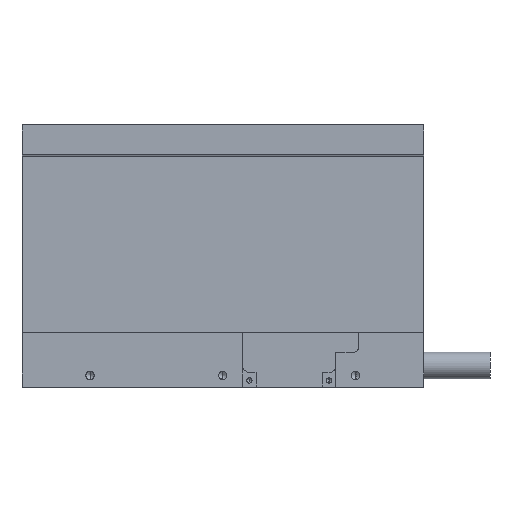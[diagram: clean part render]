
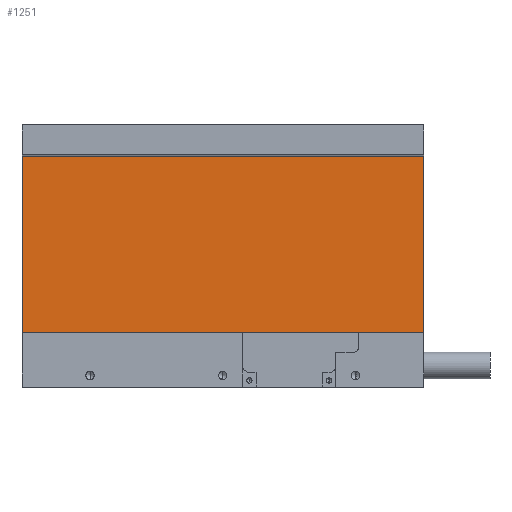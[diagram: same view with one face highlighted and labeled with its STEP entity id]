
A CAD part, left-side view. The second image highlights one B-rep face of the part: STEP entity #1251.
In plain terms, the highlighted planar face has unit normal (-1, 0, 0).
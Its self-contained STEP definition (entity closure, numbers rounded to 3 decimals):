
#83 = CARTESIAN_POINT ( 'NONE',  ( -3.6, 121., -9.5 ) ) ;
#86 = DIRECTION ( 'NONE',  ( 0., 0., 1. ) ) ;
#210 = ORIENTED_EDGE ( 'NONE', *, *, #1215, .F. ) ;
#351 = LINE ( 'NONE', #1177, #1362 ) ;
#378 = EDGE_CURVE ( 'NONE', #3182, #1175, #664, .T. ) ;
#424 = LINE ( 'NONE', #2509, #1943 ) ;
#645 = DIRECTION ( 'NONE',  ( 1., 0., 0. ) ) ;
#664 = LINE ( 'NONE', #1188, #1250 ) ;
#747 = ORIENTED_EDGE ( 'NONE', *, *, #2560, .T. ) ;
#933 = CARTESIAN_POINT ( 'NONE',  ( -3.6, 121., -62.6 ) ) ;
#1033 = DIRECTION ( 'NONE',  ( 0., -1., 0. ) ) ;
#1053 = EDGE_LOOP ( 'NONE', ( #747, #1777, #210, #2303 ) ) ;
#1175 = VERTEX_POINT ( 'NONE', #3097 ) ;
#1177 = CARTESIAN_POINT ( 'NONE',  ( -3.6, 121., -62.6 ) ) ;
#1188 = CARTESIAN_POINT ( 'NONE',  ( -3.6, 121., -9.5 ) ) ;
#1215 = EDGE_CURVE ( 'NONE', #2407, #3182, #351, .T. ) ;
#1250 = VECTOR ( 'NONE', #2931, 1000. ) ;
#1251 = ADVANCED_FACE ( 'NONE', ( #1984 ), #2650, .F. ) ;
#1295 = VERTEX_POINT ( 'NONE', #1425 ) ;
#1362 = VECTOR ( 'NONE', #2398, 1000. ) ;
#1425 = CARTESIAN_POINT ( 'NONE',  ( -3.6, 0., -62.6 ) ) ;
#1455 = LINE ( 'NONE', #2818, #2041 ) ;
#1550 = AXIS2_PLACEMENT_3D ( 'NONE', #933, #645, #3144 ) ;
#1726 = CARTESIAN_POINT ( 'NONE',  ( -3.6, 121., -62.6 ) ) ;
#1777 = ORIENTED_EDGE ( 'NONE', *, *, #378, .F. ) ;
#1943 = VECTOR ( 'NONE', #1033, 1000. ) ;
#1984 = FACE_OUTER_BOUND ( 'NONE', #1053, .T. ) ;
#2041 = VECTOR ( 'NONE', #86, 1000. ) ;
#2303 = ORIENTED_EDGE ( 'NONE', *, *, #3057, .T. ) ;
#2398 = DIRECTION ( 'NONE',  ( 0., 0., 1. ) ) ;
#2407 = VERTEX_POINT ( 'NONE', #1726 ) ;
#2509 = CARTESIAN_POINT ( 'NONE',  ( -3.6, 121., -62.6 ) ) ;
#2560 = EDGE_CURVE ( 'NONE', #1295, #1175, #1455, .T. ) ;
#2650 = PLANE ( 'NONE',  #1550 ) ;
#2818 = CARTESIAN_POINT ( 'NONE',  ( -3.6, 0., -62.6 ) ) ;
#2931 = DIRECTION ( 'NONE',  ( 0., -1., 0. ) ) ;
#3057 = EDGE_CURVE ( 'NONE', #2407, #1295, #424, .T. ) ;
#3097 = CARTESIAN_POINT ( 'NONE',  ( -3.6, 0., -9.5 ) ) ;
#3144 = DIRECTION ( 'NONE',  ( 0., 0., -1. ) ) ;
#3182 = VERTEX_POINT ( 'NONE', #83 ) ;
